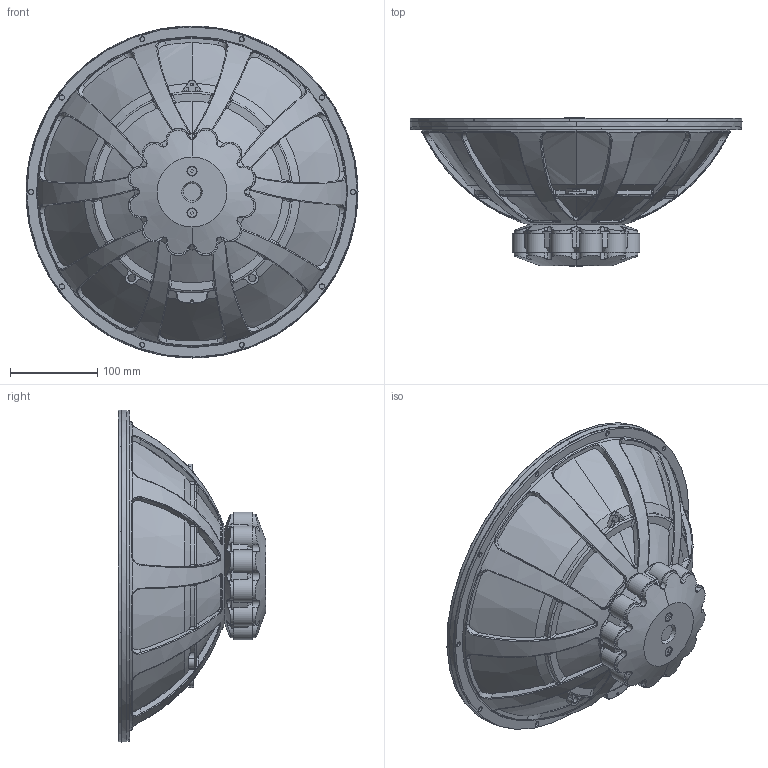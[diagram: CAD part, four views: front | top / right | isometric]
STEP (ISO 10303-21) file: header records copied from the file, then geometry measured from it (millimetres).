
FILE_DESCRIPTION (( 'STEP AP214' ), '1' );
FILE_NAME ('38WE_8582T00.STEP', '2020-12-15T08:39:19', ( '' ), ( '' ), 'SwSTEP 2.0', 'SolidWorks 2019', '' );
FILE_SCHEMA (( 'AUTOMOTIVE_DESIGN' ));
Length unit declared in the file: millimetre
Products named in the file (1): 38WE_8582T00
Bounding box: 380 x 169 x 380 mm (x, y, z)
Volume: 5707922.1 mm3; surface area: 406815.3 mm2
Topology: 3 solids, 32 shells, 1288 faces, 3123 edges, 1917 vertices
Faces by surface type: cylinder 336, torus 275, bspline 252, cone 243, plane 178, sphere 4
Entity records: 73949 total; most frequent: CARTESIAN_POINT 32792, ORIENTED_EDGE 6234, DIRECTION 5520, EDGE_CURVE 3117, AXIS2_PLACEMENT_3D 2498, VERTEX_POINT 1917, CIRCLE 1461, EDGE_LOOP 1334
